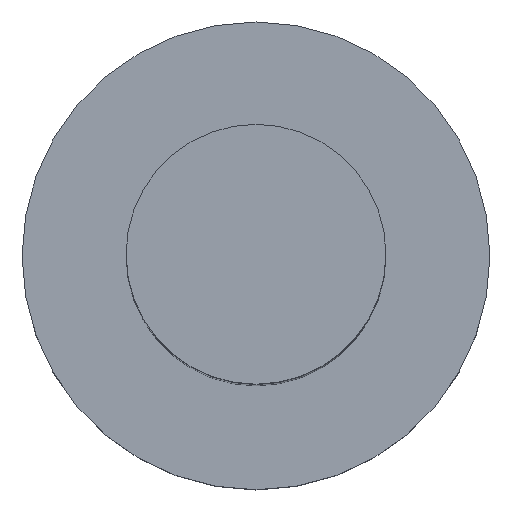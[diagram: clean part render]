
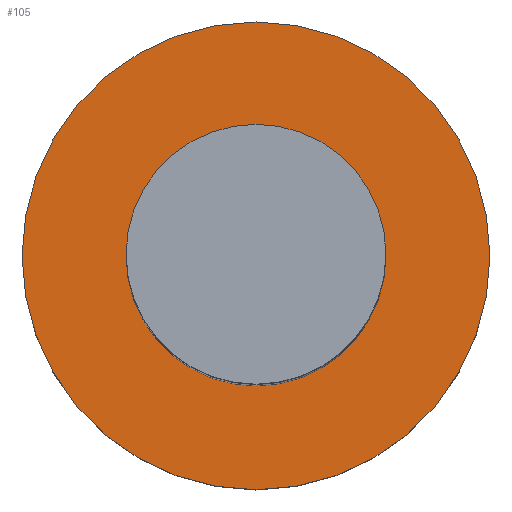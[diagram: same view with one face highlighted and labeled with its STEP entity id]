
A CAD part, top view. The second image highlights one B-rep face of the part: STEP entity #105.
In plain terms, the highlighted planar face has unit normal (0, 0, 1).
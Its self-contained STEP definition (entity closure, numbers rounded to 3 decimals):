
#21 = EDGE_CURVE('',#22,#22,#24,.T.);
#22 = VERTEX_POINT('',#23);
#23 = CARTESIAN_POINT('',(2.25,0.,1.2));
#24 = SURFACE_CURVE('',#25,(#30,#42),.PCURVE_S1.);
#25 = CIRCLE('',#26,2.25);
#26 = AXIS2_PLACEMENT_3D('',#27,#28,#29);
#27 = CARTESIAN_POINT('',(0.,0.,1.2));
#28 = DIRECTION('',(0.,0.,1.));
#29 = DIRECTION('',(1.,0.,-0.));
#30 = PCURVE('',#31,#36);
#31 = CYLINDRICAL_SURFACE('',#32,2.25);
#32 = AXIS2_PLACEMENT_3D('',#33,#34,#35);
#33 = CARTESIAN_POINT('',(0.,0.,0.));
#34 = DIRECTION('',(0.,0.,1.));
#35 = DIRECTION('',(1.,0.,-0.));
#36 = DEFINITIONAL_REPRESENTATION('',(#37),#41);
#37 = LINE('',#38,#39);
#38 = CARTESIAN_POINT('',(0.,1.2));
#39 = VECTOR('',#40,1.);
#40 = DIRECTION('',(1.,0.));
#41 = ( GEOMETRIC_REPRESENTATION_CONTEXT(2) 
PARAMETRIC_REPRESENTATION_CONTEXT() REPRESENTATION_CONTEXT('2D SPACE',''
  ) );
#42 = PCURVE('',#43,#48);
#43 = PLANE('',#44);
#44 = AXIS2_PLACEMENT_3D('',#45,#46,#47);
#45 = CARTESIAN_POINT('',(0.,0.,1.2));
#46 = DIRECTION('',(0.,0.,1.));
#47 = DIRECTION('',(1.,0.,-0.));
#48 = DEFINITIONAL_REPRESENTATION('',(#49),#53);
#49 = CIRCLE('',#50,2.25);
#50 = AXIS2_PLACEMENT_2D('',#51,#52);
#51 = CARTESIAN_POINT('',(0.,0.));
#52 = DIRECTION('',(1.,0.));
#53 = ( GEOMETRIC_REPRESENTATION_CONTEXT(2) 
PARAMETRIC_REPRESENTATION_CONTEXT() REPRESENTATION_CONTEXT('2D SPACE',''
  ) );
#105 = ADVANCED_FACE('',(#106,#109),#43,.T.);
#106 = FACE_BOUND('',#107,.T.);
#107 = EDGE_LOOP('',(#108));
#108 = ORIENTED_EDGE('',*,*,#21,.T.);
#109 = FACE_BOUND('',#110,.T.);
#110 = EDGE_LOOP('',(#111));
#111 = ORIENTED_EDGE('',*,*,#112,.F.);
#112 = EDGE_CURVE('',#113,#113,#115,.T.);
#113 = VERTEX_POINT('',#114);
#114 = CARTESIAN_POINT('',(1.25,0.,1.2));
#115 = SURFACE_CURVE('',#116,(#121,#128),.PCURVE_S1.);
#116 = CIRCLE('',#117,1.25);
#117 = AXIS2_PLACEMENT_3D('',#118,#119,#120);
#118 = CARTESIAN_POINT('',(0.,0.,1.2));
#119 = DIRECTION('',(0.,0.,1.));
#120 = DIRECTION('',(1.,0.,-0.));
#121 = PCURVE('',#43,#122);
#122 = DEFINITIONAL_REPRESENTATION('',(#123),#127);
#123 = CIRCLE('',#124,1.25);
#124 = AXIS2_PLACEMENT_2D('',#125,#126);
#125 = CARTESIAN_POINT('',(0.,0.));
#126 = DIRECTION('',(1.,0.));
#127 = ( GEOMETRIC_REPRESENTATION_CONTEXT(2) 
PARAMETRIC_REPRESENTATION_CONTEXT() REPRESENTATION_CONTEXT('2D SPACE',''
  ) );
#128 = PCURVE('',#129,#134);
#129 = CYLINDRICAL_SURFACE('',#130,1.25);
#130 = AXIS2_PLACEMENT_3D('',#131,#132,#133);
#131 = CARTESIAN_POINT('',(0.,0.,1.2));
#132 = DIRECTION('',(0.,0.,1.));
#133 = DIRECTION('',(1.,0.,-0.));
#134 = DEFINITIONAL_REPRESENTATION('',(#135),#139);
#135 = LINE('',#136,#137);
#136 = CARTESIAN_POINT('',(0.,0.));
#137 = VECTOR('',#138,1.);
#138 = DIRECTION('',(1.,0.));
#139 = ( GEOMETRIC_REPRESENTATION_CONTEXT(2) 
PARAMETRIC_REPRESENTATION_CONTEXT() REPRESENTATION_CONTEXT('2D SPACE',''
  ) );
